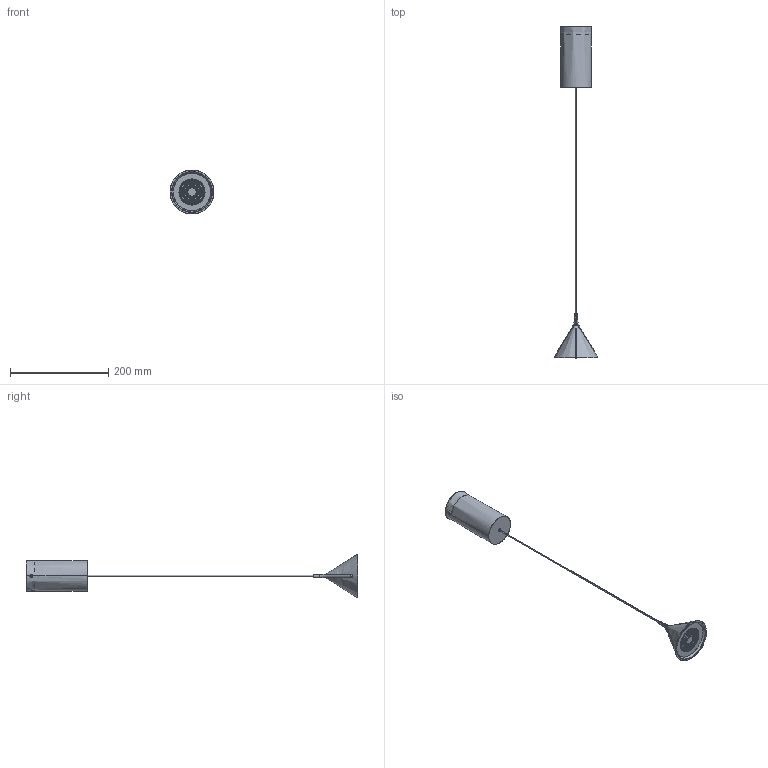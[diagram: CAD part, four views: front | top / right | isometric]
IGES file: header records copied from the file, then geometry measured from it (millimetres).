
Start section: SolidWorks IGES file using analytic representation for surfaces
Global section: file name: D:\OneDrive\R&D\3D\JEWEL MONO\JEWEL MONO CE.IGS; native system: SolidWorks 2019; preprocessor: SolidWorks 2019; author: tecnico8; date: 210324.151925; units: millimetre
Bounding box: 89.79 x 677.36 x 89.79 mm (x, y, z)
Surface area: 97956.5 mm2 (no closed solid volume)
Topology: 0 solids, 0 shells, 893 faces, 11123 edges, 11065 vertices
Faces by surface type: revolution 548, bspline 345
